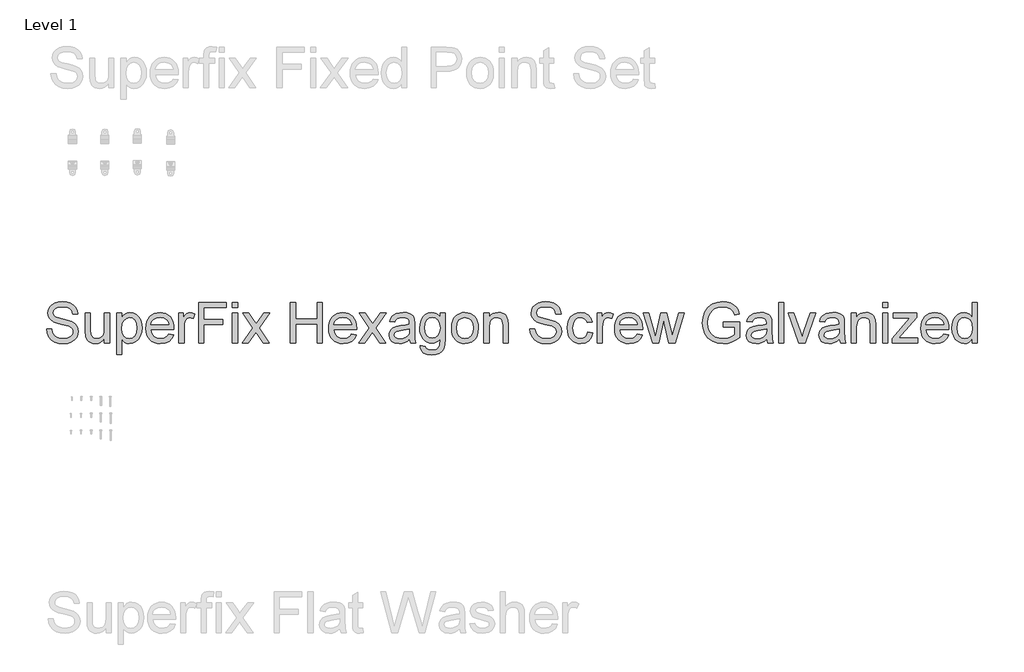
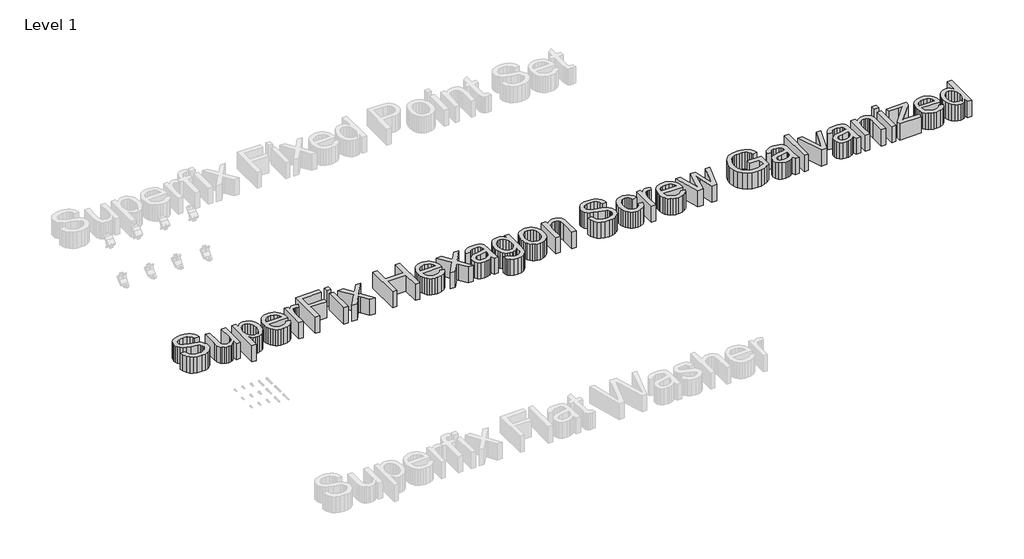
# One storey, part 19 of 32: 1 proxy.
"""IFC4 building model written with IfcOpenShell, lengths in millimetres."""

from ifc_helpers import new_model, si_unit, origin, origin_with_axes, place, context, project, spatial, polyline, outline, extrude, element, save

model = new_model("IFC4")

# Units and contexts
model_context = context("Model", 3, world=origin())
ifc_project = project(units=[si_unit("LENGTHUNIT", "METRE", prefix="MILLI")], contexts=[model_context])

# Site, building, storey
site = spatial("IfcSite", under=ifc_project)
building = spatial("IfcBuilding", under=site)
storey = spatial("IfcBuildingStorey", under=building, Name="Level 1", Elevation=0.0)

# Proxy
placement = place(None, origin())
element("IfcBuildingElementProxy", 1, Name="300mm Arial 2", ObjectType="300mm Arial 2", at=placement, inside=storey, context=model_context, shape_type="SweptSolid", body=[
    extrude(outline(polyline([(-40576.8327073, 14693.8825918), (-40539.161591, 14693.8825918), (-40534.8389775, 14672.9776974), (-40527.0214851, 14656.1746873), (-40514.826197, 14642.838965), (-40497.3701963, 14632.335934), (-40476.0330406, 14625.52092), (-40452.1942873, 14623.2492487), (-40431.2066195, 14624.969097), (-40412.8309138, 14630.128642), (-40397.9408901, 14638.2956223), (-40387.410268, 14649.0377766), (-40381.147077, 14661.3710205), (-40379.0593467, 14674.3112696), (-40380.6228452, 14686.920425), (-40385.3133406, 14697.8189291), (-40394.8414843, 14707.1171466), (-40410.9179275, 14714.9254419), (-40465.7691329, 14729.3096279), (-40501.7755832, 14738.8285745), (-40524.8141932, 14747.8876687), (-40543.5669779, 14760.5612034), (-40556.8567149, 14775.9202767), (-40564.7753749, 14793.6337948), (-40567.4149282, 14813.3706638), (-40564.1499755, 14835.4343865), (-40554.3551174, 14856.0081871), (-40538.2878712, 14873.4457936), (-40516.2057545, 14886.1009343), (-40489.6998567, 14893.798865), (-40460.3612676, 14896.3648419), (-40428.5762632, 14893.6793034), (-40400.7643844, 14885.6226877), (-40377.9189125, 14872.3605417), (-40361.0331289, 14854.0584125), (-40350.346157, 14831.8567341), (-40346.0971199, 14806.8959407), (-40383.7682362, 14806.8959407), (-40390.6844177, 14829.3735306), (-40405.1053919, 14845.5971266), (-40427.6381641, 14855.4195759), (-40458.8897396, 14858.6937256), (-40490.8770791, 14855.4563641), (-40512.8212401, 14845.7442794), (-40525.513169, 14831.4520639), (-40529.7438119, 14814.4743098), (-40526.7455736, 14799.9981533), (-40517.7508589, 14788.3546881), (-40496.4872795, 14777.9436277), (-40456.2409893, 14767.311838), (-40414.707112, 14757.2134773), (-40389.5807717, 14748.4027035), (-40368.1056603, 14734.7358874), (-40353.123666, 14717.8684979), (-40344.3220893, 14697.984476), (-40341.3882304, 14675.2677628), (-40344.7635477, 14652.0452119), (-40354.8894996, 14630.2022184), (-40371.3522189, 14611.4034485), (-40393.7378383, 14597.3135681), (-40420.6576033, 14588.5119913), (-40450.7227593, 14585.5781324), (-40487.6305205, 14588.7419176), (-40518.0083763, 14598.233273), (-40542.2058145, 14614.088987), (-40560.5723231, 14636.3458477), (-40572.362941, 14663.4587508), (-40576.8327073, 14693.8825918)])), origin_with_axes(), (0.0, 0.0, 1.0), 150.0),
    extrude(outline(polyline([(-40148.3237593, 14590.2870219), (-40148.3237593, 14628.3260202), (-40161.9537872, 14609.6238193), (-40177.8278953, 14596.2651044), (-40195.9460836, 14588.2498754), (-40216.308352, 14585.5781324), (-40234.6564665, 14587.4543306), (-40251.7353881, 14593.0829251), (-40266.0643919, 14601.544211), (-40276.1627526, 14611.9184833), (-40287.3831535, 14639.6567857), (-40289.5904455, 14674.6791516), (-40289.5904455, 14811.6048302), (-40251.9193291, 14811.6048302), (-40251.9193291, 14692.4110638), (-40249.6384608, 14654.0041835), (-40244.147822, 14641.192693), (-40234.73924, 14631.4530172), (-40222.0381141, 14625.3001908), (-40206.6698437, 14623.2492487), (-40190.4186566, 14625.3461761), (-40175.2159332, 14631.6369582), (-40162.6803542, 14641.5421809), (-40154.4306004, 14654.4824301), (-40149.8504696, 14672.2051452), (-40148.3237593, 14696.4577658), (-40148.3237593, 14811.6048302), (-40110.652643, 14811.6048302), (-40110.652643, 14590.2870219), (-40148.3237593, 14590.2870219)])), origin_with_axes(), (0.0, 0.0, 1.0), 150.0),
    extrude(outline(polyline([(-40058.8548581, 14505.5270103), (-40058.8548581, 14811.6048302), (-40021.1837418, 14811.6048302), (-40021.1837418, 14774.6694779), (-40008.8964831, 14792.8888337), (-39995.1376965, 14805.9026593), (-39979.0980415, 14813.7109547), (-39959.9681778, 14816.3137198), (-39934.4923496, 14812.671688), (-39912.2170948, 14801.7455928), (-39894.0805124, 14784.1976216), (-39881.0207016, 14760.6899621), (-39873.1296328, 14732.9332656), (-39870.4992765, 14702.6381833), (-39873.4699237, 14670.4209175), (-39882.381865, 14641.6065603), (-39896.949992, 14617.6574424), (-39916.8891961, 14600.0358948), (-39940.1117471, 14589.192573), (-39964.5299145, 14585.5781324), (-39981.8479594, 14587.9969565), (-39997.3082003, 14595.2534289), (-40010.5427551, 14606.2071153), (-40021.1837418, 14619.7175816), (-40021.1837418, 14505.5270103), (-40058.8548581, 14505.5270103)]), holes=[polyline([(-40021.1837418, 14699.1800925), (-40017.1094487, 14665.4085254), (-40004.8865694, 14641.7905013), (-39986.8511546, 14627.8845619), (-39965.3392549, 14623.2492487), (-39943.4778673, 14628.0501087), (-39924.9826, 14642.4526889), (-39912.3734446, 14666.9352356), (-39908.1703929, 14701.9759957), (-39912.2722771, 14735.5636218), (-39924.5779298, 14759.5127397), (-39942.5857535, 14773.8601375), (-39963.7941505, 14778.6426035), (-39985.085321, 14773.5566349), (-40003.7829234, 14758.2987291), (-40016.8335372, 14733.3471328), (-40021.1837418, 14699.1800925)])]), origin_with_axes(), (0.0, 0.0, 1.0), 150.0),
    extrude(outline(polyline([(-39673.1673743, 14656.2114755), (-39636.232022, 14651.5025859), (-39649.5401532, 14623.672313), (-39670.7761414, 14602.8685862), (-39699.4617399, 14589.9007458), (-39735.1187023, 14585.5781324), (-39758.4930046, 14587.4428343), (-39779.319724, 14593.0369399), (-39797.5988607, 14602.3604492), (-39813.3304145, 14615.4133622), (-39825.9809566, 14631.8323955), (-39835.0170581, 14651.2542656), (-39840.438719, 14673.6789725), (-39842.2459393, 14699.1065161), (-39840.4203249, 14725.3962832), (-39834.9434817, 14748.5682504), (-39825.8154097, 14768.6224176), (-39813.0361089, 14785.558785), (-39797.3459418, 14799.014069), (-39779.4852709, 14808.6249861), (-39759.4540963, 14814.3915364), (-39737.2524179, 14816.3137198), (-39715.7658101, 14814.3961349), (-39696.334743, 14808.6433802), (-39678.9592165, 14799.0554557), (-39663.6392307, 14785.6323614), (-39651.1335421, 14768.7327822), (-39642.2009074, 14748.7154032), (-39636.8413266, 14725.5802242), (-39635.0547996, 14699.3272453), (-39635.2755288, 14689.1737022), (-39804.574823, 14689.1737022), (-39798.0541146, 14660.9755473), (-39782.9065735, 14640.2453969), (-39761.0451859, 14627.4982858), (-39734.3829383, 14623.2492487), (-39714.3333696, 14625.2174174), (-39697.447586, 14631.1219234), (-39683.7255876, 14641.3306488), (-39673.1673743, 14656.2114755)]), holes=[polyline([(-39804.574823, 14726.8448186), (-39672.7259159, 14726.8448186), (-39677.8210816, 14746.7472345), (-39687.8090777, 14760.9842677), (-39709.7716329, 14774.2280195), (-39737.3995707, 14778.6426035), (-39762.7926254, 14775.1201334), (-39783.7894903, 14764.5527231), (-39798.3852084, 14748.0808067), (-39804.574823, 14726.8448186)])]), origin_with_axes(), (0.0, 0.0, 1.0), 150.0),
    extrude(outline(polyline([(-39597.3836833, 14590.2870219), (-39597.3836833, 14811.6048302), (-39564.4214566, 14811.6048302), (-39564.4214566, 14778.8633327), (-39552.2445625, 14797.8460436), (-39541.0241617, 14809.0296563), (-39529.7669726, 14814.4927039), (-39517.479714, 14816.3137198), (-39498.7177322, 14813.407452), (-39479.6614449, 14804.6886487), (-39492.2430091, 14770.9170816), (-39505.4867609, 14776.711223), (-39518.7305128, 14778.6426035), (-39529.9785048, 14776.7847994), (-39540.0308803, 14771.2113872), (-39548.1518753, 14762.3454311), (-39553.6057259, 14750.6099954), (-39558.1858567, 14729.5671453), (-39559.712567, 14706.6113088), (-39559.712567, 14590.2870219), (-39597.3836833, 14590.2870219)])), origin_with_axes(), (0.0, 0.0, 1.0), 150.0),
    extrude(outline(polyline([(-39451.4081076, 14590.2870219), (-39451.4081076, 14891.6559524), (-39248.9258575, 14891.6559524), (-39248.9258575, 14853.9848361), (-39413.7369913, 14853.9848361), (-39413.7369913, 14764.5159349), (-39272.4703052, 14764.5159349), (-39272.4703052, 14726.8448186), (-39413.7369913, 14726.8448186), (-39413.7369913, 14590.2870219), (-39451.4081076, 14590.2870219)])), origin_with_axes(), (0.0, 0.0, 1.0), 150.0),
    extrude(outline(polyline([(-39201.8369621, 14853.9848361), (-39201.8369621, 14891.6559524), (-39164.1658458, 14891.6559524), (-39164.1658458, 14853.9848361), (-39201.8369621, 14853.9848361)])), origin_with_axes(), (0.0, 0.0, 1.0), 150.0),
    extrude(outline(polyline([(-39201.8369621, 14590.2870219), (-39201.8369621, 14811.6048302), (-39164.1658458, 14811.6048302), (-39164.1658458, 14590.2870219), (-39201.8369621, 14590.2870219)])), origin_with_axes(), (0.0, 0.0, 1.0), 150.0),
    extrude(outline(polyline([(-39131.203619, 14590.2870219), (-39050.7110385, 14701.5345373), (-39126.4947295, 14811.6048302), (-39081.1716677, 14811.6048302), (-39044.6041974, 14758.6298229), (-39027.5344728, 14733.6138473), (-39012.7456166, 14754.0680862), (-38971.1013747, 14811.6048302), (-38925.7783129, 14811.6048302), (-39005.3879767, 14701.5345373), (-38928.7213689, 14590.2870219), (-38974.0444307, 14590.2870219), (-39020.1768329, 14657.1679687), (-39028.6381188, 14669.3816509), (-39085.8805572, 14590.2870219), (-39131.203619, 14590.2870219)])), origin_with_axes(), (0.0, 0.0, 1.0), 150.0),
    extrude(outline(polyline([(-38773.3280141, 14590.2870219), (-38773.3280141, 14891.6559524), (-38735.6568978, 14891.6559524), (-38735.6568978, 14769.2248244), (-38575.5546535, 14769.2248244), (-38575.5546535, 14891.6559524), (-38537.8835372, 14891.6559524), (-38537.8835372, 14590.2870219), (-38575.5546535, 14590.2870219), (-38575.5546535, 14731.5537081), (-38735.6568978, 14731.5537081), (-38735.6568978, 14590.2870219), (-38773.3280141, 14590.2870219)])), origin_with_axes(), (0.0, 0.0, 1.0), 150.0),
    extrude(outline(polyline([(-38321.7160769, 14656.2114755), (-38284.7807245, 14651.5025859), (-38298.0888557, 14623.672313), (-38319.3248439, 14602.8685862), (-38348.0104425, 14589.9007458), (-38383.6674048, 14585.5781324), (-38407.0417071, 14587.4428343), (-38427.8684266, 14593.0369399), (-38446.1475632, 14602.3604492), (-38461.879117, 14615.4133622), (-38474.5296591, 14631.8323955), (-38483.5657606, 14651.2542656), (-38488.9874215, 14673.6789725), (-38490.7946418, 14699.1065161), (-38488.9690274, 14725.3962832), (-38483.4921842, 14748.5682504), (-38474.3641122, 14768.6224176), (-38461.5848114, 14785.558785), (-38445.8946443, 14799.014069), (-38428.0339735, 14808.6249861), (-38408.0027988, 14814.3915364), (-38385.8011204, 14816.3137198), (-38364.3145126, 14814.3961349), (-38344.8834455, 14808.6433802), (-38327.507919, 14799.0554557), (-38312.1879332, 14785.6323614), (-38299.6822446, 14768.7327822), (-38290.7496099, 14748.7154032), (-38285.3900291, 14725.5802242), (-38283.6035022, 14699.3272453), (-38283.8242313, 14689.1737022), (-38453.1235255, 14689.1737022), (-38446.6028172, 14660.9755473), (-38431.455276, 14640.2453969), (-38409.5938884, 14627.4982858), (-38382.9316408, 14623.2492487), (-38362.8820721, 14625.2174174), (-38345.9962885, 14631.1219234), (-38332.2742901, 14641.3306488), (-38321.7160769, 14656.2114755)]), holes=[polyline([(-38453.1235255, 14726.8448186), (-38321.2746185, 14726.8448186), (-38326.3697841, 14746.7472345), (-38336.3577803, 14760.9842677), (-38358.3203354, 14774.2280195), (-38385.9482732, 14778.6426035), (-38411.3413279, 14775.1201334), (-38432.3381928, 14764.5527231), (-38446.933911, 14748.0808067), (-38453.1235255, 14726.8448186)])]), origin_with_axes(), (0.0, 0.0, 1.0), 150.0),
    extrude(outline(polyline([(-38269.4768335, 14590.2870219), (-38188.984253, 14701.5345373), (-38264.767944, 14811.6048302), (-38219.4448822, 14811.6048302), (-38182.8774119, 14758.6298229), (-38165.8076873, 14733.6138473), (-38151.0188311, 14754.0680862), (-38109.3745892, 14811.6048302), (-38064.0515274, 14811.6048302), (-38143.6611912, 14701.5345373), (-38066.9945834, 14590.2870219), (-38112.3176452, 14590.2870219), (-38158.4500474, 14657.1679687), (-38166.9113333, 14669.3816509), (-38224.1537717, 14590.2870219), (-38269.4768335, 14590.2870219)])), origin_with_axes(), (0.0, 0.0, 1.0), 150.0),
    extrude(outline(polyline([(-37892.7656705, 14618.5403592), (-37910.7642971, 14603.1077095), (-37929.2963526, 14593.0093487), (-37948.7849013, 14587.4359365), (-37969.6530075, 14585.5781324), (-38001.1345092, 14590.0478986), (-38024.3570602, 14603.4571974), (-38038.6768668, 14623.8194658), (-38043.4501357, 14649.1481412), (-38041.6475139, 14664.7647319), (-38036.2396486, 14678.9465828), (-38027.8979244, 14691.0866886), (-38017.2937258, 14700.5780441), (-37990.9165868, 14712.9388791), (-37958.322242, 14718.6042619), (-37919.8049971, 14724.5639502), (-37892.9863997, 14731.5537081), (-37892.7656705, 14739.9414176), (-37895.3592385, 14756.7536248), (-37903.1399427, 14767.7532964), (-37920.5407611, 14775.9202767), (-37944.7841846, 14778.6426035), (-37967.2249863, 14776.8307846), (-37982.8967593, 14771.3953282), (-37993.5837313, 14761.3429527), (-38001.0701299, 14745.6803767), (-38038.7412462, 14750.3892662), (-38032.2021437, 14770.990658), (-38022.4440738, 14787.1774658), (-38008.5565285, 14799.5566949), (-37989.6289998, 14808.7353507), (-37966.4800253, 14814.4191275), (-37939.9281423, 14816.3137198), (-37914.4615111, 14814.6398567), (-37894.2739867, 14809.6182675), (-37879.0528691, 14802.0674895), (-37868.4854588, 14792.8060603), (-37861.4773068, 14781.3557332), (-37856.9339641, 14767.2382616), (-37855.0945542, 14734.2760349), (-37855.0945542, 14687.4078687), (-37853.1815678, 14621.9616617), (-37845.6767751, 14590.2870219), (-37883.3478914, 14590.2870219), (-37892.7656705, 14618.5403592)]), holes=[polyline([(-37892.7656705, 14693.8825918), (-37953.5397761, 14682.3310971), (-37985.9501799, 14676.224256), (-38000.6286715, 14666.2914421), (-38005.7790194, 14651.7968915), (-38002.9739192, 14640.5948848), (-37994.5586185, 14631.416229), (-37980.7170585, 14625.2909938), (-37961.63318, 14623.2492487), (-37941.3996702, 14625.5025259), (-37923.5206053, 14632.2623576), (-37909.0260547, 14642.2227626), (-37898.946088, 14654.0777599), (-37894.4763218, 14666.2914421), (-37892.9863997, 14683.2140139), (-37892.7656705, 14693.8825918)])]), origin_with_axes(), (0.0, 0.0, 1.0), 150.0),
    extrude(outline(polyline([(-37812.7145483, 14571.4514638), (-37775.043432, 14566.7425743), (-37770.8863655, 14554.9703504), (-37762.8297498, 14546.8769465), (-37746.9924299, 14540.5861644), (-37726.2622795, 14538.489237), (-37704.1525715, 14540.8620759), (-37687.7082464, 14547.9805925), (-37676.3039045, 14559.3849343), (-37669.3141466, 14574.6152489), (-37666.7389726, 14618.5403592), (-37679.2745516, 14606.1795241), (-37693.2632645, 14597.3503563), (-37708.7051112, 14592.0528555), (-37725.6000919, 14590.2870219), (-37746.2543666, 14592.3425626), (-37764.4392335, 14598.5091845), (-37780.1546925, 14608.7868878), (-37793.4007436, 14623.1756723), (-37803.9106723, 14640.4385349), (-37811.4177643, 14659.3384724), (-37815.9220195, 14679.8754848), (-37817.4234379, 14702.0495721), (-37814.7287022, 14732.464216), (-37806.6444954, 14760.4324447), (-37793.4559259, 14784.1332423), (-37775.4481022, 14801.7455928), (-37753.2372268, 14812.671688), (-37727.4395018, 14816.3137198), (-37709.8225528, 14814.2535806), (-37693.8334816, 14808.0731631), (-37679.4722882, 14797.7724672), (-37666.7389726, 14783.351493), (-37666.7389726, 14811.6048302), (-37629.0678563, 14811.6048302), (-37629.0678563, 14620.5269219), (-37631.6430303, 14576.4086737), (-37639.3685522, 14547.3551931), (-37652.6766834, 14528.0873736), (-37671.9996852, 14513.3261086), (-37696.9144933, 14503.9451177), (-37726.9980434, 14500.8181207), (-37762.0480005, 14505.2235076), (-37789.6483472, 14518.4396683), (-37800.0433129, 14528.3609858), (-37807.3526682, 14540.5033909), (-37811.5764134, 14554.8668836), (-37812.7145483, 14571.4514638)]), holes=[polyline([(-37779.7523216, 14704.624746), (-37775.7332108, 14670.0714296), (-37763.6758784, 14646.3154498), (-37745.5484931, 14632.5474661), (-37723.3192235, 14627.9581383), (-37701.2555008, 14632.519875), (-37683.036145, 14646.2050852), (-37670.8132657, 14669.6575624), (-37666.7389726, 14703.5211001), (-37670.9328274, 14736.1798242), (-37683.5143916, 14759.6966807), (-37702.0004619, 14773.9061228), (-37723.9078347, 14778.6426035), (-37745.4197344, 14773.9796992), (-37763.4551492, 14759.9909863), (-37775.6780285, 14736.8236177), (-37779.7523216, 14704.624746)])]), origin_with_axes(), (0.0, 0.0, 1.0), 150.0),
    extrude(outline(polyline([(-37581.978961, 14700.9459261), (-37579.9418144, 14729.608532), (-37573.8303748, 14754.3072095), (-37563.644642, 14775.0419584), (-37549.3846162, 14791.8127789), (-37535.0280213, 14802.5319405), (-37519.1815044, 14810.1884846), (-37501.8450654, 14814.782411), (-37483.0187042, 14816.3137198), (-37462.2356708, 14814.4490179), (-37443.4437986, 14808.8549123), (-37426.6430877, 14799.531403), (-37411.8335382, 14786.47849), (-37399.7463154, 14770.1376316), (-37391.1125848, 14750.9502863), (-37385.9323465, 14728.916454), (-37384.2056003, 14704.0361349), (-37387.2590209, 14665.9787425), (-37396.4192826, 14637.0080353), (-37411.4196709, 14615.3121947), (-37431.9934715, 14599.0794016), (-37456.430033, 14588.9534497), (-37483.0187042, 14585.5781324), (-37504.1052404, 14587.4359365), (-37523.0718565, 14593.0093487), (-37539.9185526, 14602.2983691), (-37554.6453287, 14615.3029976), (-37566.6037928, 14631.8025051), (-37575.1455529, 14651.5761623), (-37580.2706089, 14674.6239693), (-37581.978961, 14700.9459261)]), holes=[polyline([(-37544.3078446, 14701.0195025), (-37539.948443, 14666.9260386), (-37526.8702381, 14642.6366299), (-37507.1885513, 14628.096094), (-37483.0187042, 14623.2492487), (-37458.9592218, 14628.1236851), (-37439.3143232, 14642.7469945), (-37426.2361183, 14667.3582999), (-37421.8767166, 14702.1967249), (-37426.2637094, 14735.2969074), (-37439.4246878, 14759.2552223), (-37459.0971775, 14773.7957582), (-37483.0187042, 14778.6426035), (-37507.1885513, 14773.8141523), (-37526.8702381, 14759.3287987), (-37539.948443, 14735.0945723), (-37544.3078446, 14701.0195025)])]), origin_with_axes(), (0.0, 0.0, 1.0), 150.0),
    extrude(outline(polyline([(-37341.8255945, 14590.2870219), (-37341.8255945, 14811.6048302), (-37304.1544782, 14811.6048302), (-37304.1544782, 14780.7027426), (-37291.0670762, 14796.2825451), (-37275.349318, 14807.4109755), (-37257.0012035, 14814.0880337), (-37236.0227327, 14816.3137198), (-37217.453889, 14814.5202951), (-37200.4485438, 14809.1400209), (-37186.2666928, 14800.8442819), (-37176.1683321, 14790.3044627), (-37164.8743548, 14762.6029485), (-37162.887792, 14726.182631), (-37162.887792, 14590.2870219), (-37200.5589084, 14590.2870219), (-37200.5589084, 14721.1058594), (-37204.8999159, 14754.4359682), (-37210.9055895, 14764.359585), (-37220.2405951, 14772.0575158), (-37232.205957, 14776.9963315), (-37246.1026994, 14778.6426035), (-37268.166422, 14774.9453894), (-37286.974389, 14763.8537473), (-37294.490678, 14754.7992517), (-37299.8594559, 14742.424621), (-37304.1544782, 14707.7149548), (-37304.1544782, 14590.2870219), (-37341.8255945, 14590.2870219)])), origin_with_axes(), (0.0, 0.0, 1.0), 150.0),
    extrude(outline(polyline([(-37002.7855477, 14693.8825918), (-36965.1144314, 14693.8825918), (-36960.791818, 14672.9776974), (-36952.9743256, 14656.1746873), (-36940.7790375, 14642.838965), (-36923.3230368, 14632.335934), (-36901.9858811, 14625.52092), (-36878.1471278, 14623.2492487), (-36857.15946, 14624.969097), (-36838.7837543, 14630.128642), (-36823.8937305, 14638.2956223), (-36813.3631084, 14649.0377766), (-36807.0999175, 14661.3710205), (-36805.0121871, 14674.3112696), (-36806.5756856, 14686.920425), (-36811.2661811, 14697.8189291), (-36820.7943247, 14707.1171466), (-36836.8707679, 14714.9254419), (-36891.7219734, 14729.3096279), (-36927.7284237, 14738.8285745), (-36950.7670336, 14747.8876687), (-36969.5198183, 14760.5612034), (-36982.8095554, 14775.9202767), (-36990.7282154, 14793.6337948), (-36993.3677687, 14813.3706638), (-36990.102816, 14835.4343865), (-36980.3079578, 14856.0081871), (-36964.2407117, 14873.4457936), (-36942.1585949, 14886.1009343), (-36915.6526972, 14893.798865), (-36886.3141081, 14896.3648419), (-36854.5291037, 14893.6793034), (-36826.7172249, 14885.6226877), (-36803.871753, 14872.3605417), (-36786.9859694, 14854.0584125), (-36776.2989974, 14831.8567341), (-36772.0499604, 14806.8959407), (-36809.7210767, 14806.8959407), (-36816.6372582, 14829.3735306), (-36831.0582324, 14845.5971266), (-36853.5910046, 14855.4195759), (-36884.8425801, 14858.6937256), (-36916.8299196, 14855.4563641), (-36938.7740806, 14845.7442794), (-36951.4660094, 14831.4520639), (-36955.6966524, 14814.4743098), (-36952.6984141, 14799.9981533), (-36943.7036993, 14788.3546881), (-36922.44012, 14777.9436277), (-36882.1938297, 14767.311838), (-36840.6599525, 14757.2134773), (-36815.5336122, 14748.4027035), (-36794.0585007, 14734.7358874), (-36779.0765065, 14717.8684979), (-36770.2749297, 14697.984476), (-36767.3410708, 14675.2677628), (-36770.7163881, 14652.0452119), (-36780.8423401, 14630.2022184), (-36797.3050593, 14611.4034485), (-36819.6906787, 14597.3135681), (-36846.6104437, 14588.5119913), (-36876.6755998, 14585.5781324), (-36913.583361, 14588.7419176), (-36943.9612167, 14598.233273), (-36968.1586549, 14614.088987), (-36986.5251636, 14636.3458477), (-36998.3157815, 14663.4587508), (-37002.7855477, 14693.8825918)])), origin_with_axes(), (0.0, 0.0, 1.0), 150.0),
    extrude(outline(polyline([(-36574.2765998, 14670.3381441), (-36536.6054835, 14665.6292546), (-36547.1085144, 14632.1244018), (-36566.8453835, 14606.8049235), (-36593.9582865, 14590.8848302), (-36626.5894195, 14585.5781324), (-36647.7173423, 14587.4290387), (-36666.6609658, 14592.9817576), (-36683.4202899, 14602.236289), (-36697.9953147, 14615.192633), (-36709.7928305, 14631.6070678), (-36718.2196274, 14651.2358715), (-36723.2757056, 14674.0790441), (-36724.961065, 14700.1365857), (-36722.0823884, 14733.6598325), (-36713.4463585, 14762.7133131), (-36698.9150197, 14786.1749873), (-36678.3504162, 14802.9228152), (-36653.7483078, 14812.9659936), (-36627.1044543, 14816.3137198), (-36595.2734646, 14811.7151948), (-36569.8252276, 14797.91962), (-36551.5690836, 14775.6627593), (-36541.314373, 14745.6803767), (-36578.9854893, 14740.9714872), (-36585.8188974, 14757.4066153), (-36596.4598841, 14769.1880362), (-36610.3198382, 14776.2789617), (-36626.8101487, 14778.6426035), (-36651.1547397, 14773.9888962), (-36670.4777415, 14760.0277745), (-36683.0868969, 14736.0050802), (-36687.2899487, 14701.1666553), (-36683.1788674, 14665.8591808), (-36670.8456235, 14641.7537131), (-36651.8721096, 14627.8753648), (-36627.8402183, 14623.2492487), (-36608.3332755, 14626.1371224), (-36592.3396057, 14634.8007434), (-36580.7053376, 14649.4608409), (-36574.2765998, 14670.3381441)])), origin_with_axes(), (0.0, 0.0, 1.0), 150.0),
    extrude(outline(polyline([(-36503.6432567, 14590.2870219), (-36503.6432567, 14811.6048302), (-36470.6810299, 14811.6048302), (-36470.6810299, 14778.8633327), (-36458.5041359, 14797.8460436), (-36447.283735, 14809.0296563), (-36436.026546, 14814.4927039), (-36423.7392873, 14816.3137198), (-36404.9773056, 14813.407452), (-36385.9210182, 14804.6886487), (-36398.5025825, 14770.9170816), (-36411.7463343, 14776.711223), (-36424.9900861, 14778.6426035), (-36436.2380781, 14776.7847994), (-36446.2904536, 14771.2113872), (-36454.4114487, 14762.3454311), (-36459.8652993, 14750.6099954), (-36464.4454301, 14729.5671453), (-36465.9721404, 14706.6113088), (-36465.9721404, 14590.2870219), (-36503.6432567, 14590.2870219)])), origin_with_axes(), (0.0, 0.0, 1.0), 150.0),
    extrude(outline(polyline([(-36207.4246742, 14656.2114755), (-36170.4893219, 14651.5025859), (-36183.797453, 14623.672313), (-36205.0334412, 14602.8685862), (-36233.7190398, 14589.9007458), (-36269.3760022, 14585.5781324), (-36292.7503044, 14587.4428343), (-36313.5770239, 14593.0369399), (-36331.8561605, 14602.3604492), (-36347.5877143, 14615.4133622), (-36360.2382564, 14631.8323955), (-36369.2743579, 14651.2542656), (-36374.6960189, 14673.6789725), (-36376.5032392, 14699.1065161), (-36374.6776248, 14725.3962832), (-36369.2007816, 14748.5682504), (-36360.0727095, 14768.6224176), (-36347.2934087, 14785.558785), (-36331.6032416, 14799.014069), (-36313.7425708, 14808.6249861), (-36293.7113961, 14814.3915364), (-36271.5097177, 14816.3137198), (-36250.02311, 14814.3961349), (-36230.5920428, 14808.6433802), (-36213.2165163, 14799.0554557), (-36197.8965305, 14785.6323614), (-36185.3908419, 14768.7327822), (-36176.4582072, 14748.7154032), (-36171.0986264, 14725.5802242), (-36169.3120995, 14699.3272453), (-36169.5328287, 14689.1737022), (-36338.8321228, 14689.1737022), (-36332.3114145, 14660.9755473), (-36317.1638733, 14640.2453969), (-36295.3024858, 14627.4982858), (-36268.6402382, 14623.2492487), (-36248.5906694, 14625.2174174), (-36231.7048859, 14631.1219234), (-36217.9828874, 14641.3306488), (-36207.4246742, 14656.2114755)]), holes=[polyline([(-36338.8321228, 14726.8448186), (-36206.9832158, 14726.8448186), (-36212.0783814, 14746.7472345), (-36222.0663776, 14760.9842677), (-36244.0289327, 14774.2280195), (-36271.6568705, 14778.6426035), (-36297.0499252, 14775.1201334), (-36318.0467901, 14764.5527231), (-36332.6425083, 14748.0808067), (-36338.8321228, 14726.8448186)])]), origin_with_axes(), (0.0, 0.0, 1.0), 150.0),
    extrude(outline(polyline([(-36094.92636, 14590.2870219), (-36162.2487652, 14811.6048302), (-36123.1061209, 14811.6048302), (-36084.9199698, 14682.4782499), (-36073.5156279, 14636.3458477), (-36064.1714252, 14680.7859928), (-36033.7843724, 14811.6048302), (-35988.902769, 14811.6048302), (-35958.662869, 14681.1538748), (-35950.3487359, 14640.9075845), (-35938.4293593, 14683.3611667), (-35900.1696318, 14811.6048302), (-35860.8798347, 14811.6048302), (-35928.7172746, 14590.2870219), (-35974.2610656, 14590.2870219), (-36003.1765904, 14720.0757898), (-36011.5642999, 14760.5428093), (-36048.8675343, 14590.2870219), (-36094.92636, 14590.2870219)])), origin_with_axes(), (0.0, 0.0, 1.0), 150.0),
    extrude(outline(polyline([(-35571.2831281, 14708.0092604), (-35571.2831281, 14745.6803767), (-35448.8520001, 14745.6803767), (-35448.8520001, 14633.0349098), (-35478.6044565, 14612.3415476), (-35509.2950119, 14597.497509), (-35540.8500901, 14588.5579766), (-35573.1961145, 14585.5781324), (-35615.4565587, 14590.3146131), (-35653.6519068, 14604.5240552), (-35685.3817289, 14627.7098179), (-35708.2455949, 14659.3752606), (-35722.0687609, 14697.3590766), (-35726.6764829, 14739.4999592), (-35722.087155, 14781.9443444), (-35708.3191713, 14821.4272795), (-35685.942749, 14854.5458561), (-35655.528105, 14877.8971658), (-35618.4823881, 14891.7479229), (-35576.2127468, 14896.3648419), (-35545.1819006, 14893.6885004), (-35517.2780512, 14885.6594759), (-35493.7795888, 14872.8571824), (-35475.9649032, 14855.8610343), (-35462.7855307, 14833.8524939), (-35453.1930077, 14806.0130239), (-35487.921068, 14796.2273628), (-35495.6741811, 14816.0837935), (-35505.1011572, 14831.0657878), (-35517.5723568, 14842.359765), (-35534.4581404, 14851.1521447), (-35554.5904826, 14856.8083304), (-35576.801358, 14858.6937256), (-35602.801418, 14856.6611776), (-35625.0306876, 14850.5635335), (-35643.4063933, 14841.1641486), (-35657.8457616, 14829.2263778), (-35677.2331427, 14800.2004884), (-35686.0623106, 14771.7632102), (-35689.0053666, 14741.0450636), (-35685.4645024, 14705.0202192), (-35674.8419098, 14675.3781274), (-35657.4594855, 14652.3303204), (-35633.6391263, 14636.0883303), (-35605.7628681, 14626.4590191), (-35576.2127468, 14623.2492487), (-35550.1207163, 14625.6680728), (-35524.6724793, 14632.9245452), (-35502.5719685, 14642.9217384), (-35486.5231164, 14653.5627251), (-35486.5231164, 14708.0092604), (-35571.2831281, 14708.0092604)])), origin_with_axes(), (0.0, 0.0, 1.0), 150.0),
    extrude(outline(polyline([(-35251.0786395, 14618.5403592), (-35269.0772661, 14603.1077095), (-35287.6093216, 14593.0093487), (-35307.0978703, 14587.4359365), (-35327.9659765, 14585.5781324), (-35359.4474782, 14590.0478986), (-35382.6700292, 14603.4571974), (-35396.9898358, 14623.8194658), (-35401.7631047, 14649.1481412), (-35399.960483, 14664.7647319), (-35394.5526176, 14678.9465828), (-35386.2108934, 14691.0866886), (-35375.6066949, 14700.5780441), (-35349.2295558, 14712.9388791), (-35316.6352111, 14718.6042619), (-35278.1179662, 14724.5639502), (-35251.2993687, 14731.5537081), (-35251.0786395, 14739.9414176), (-35253.6722076, 14756.7536248), (-35261.4529118, 14767.7532964), (-35278.8537301, 14775.9202767), (-35303.0971536, 14778.6426035), (-35325.5379553, 14776.8307846), (-35341.2097283, 14771.3953282), (-35351.8967003, 14761.3429527), (-35359.3830989, 14745.6803767), (-35397.0542152, 14750.3892662), (-35390.5151127, 14770.990658), (-35380.7570428, 14787.1774658), (-35366.8694975, 14799.5566949), (-35347.9419688, 14808.7353507), (-35324.7929943, 14814.4191275), (-35298.2411113, 14816.3137198), (-35272.7744802, 14814.6398567), (-35252.5869557, 14809.6182675), (-35237.3658381, 14802.0674895), (-35226.7984278, 14792.8060603), (-35219.7902758, 14781.3557332), (-35215.2469332, 14767.2382616), (-35213.4075232, 14734.2760349), (-35213.4075232, 14687.4078687), (-35211.4945368, 14621.9616617), (-35203.9897441, 14590.2870219), (-35241.6608604, 14590.2870219), (-35251.0786395, 14618.5403592)]), holes=[polyline([(-35251.0786395, 14693.8825918), (-35311.8527451, 14682.3310971), (-35344.2631489, 14676.224256), (-35358.9416405, 14666.2914421), (-35364.0919884, 14651.7968915), (-35361.2868882, 14640.5948848), (-35352.8715876, 14631.416229), (-35339.0300275, 14625.2909938), (-35319.946149, 14623.2492487), (-35299.7126393, 14625.5025259), (-35281.8335743, 14632.2623576), (-35267.3390237, 14642.2227626), (-35257.259057, 14654.0777599), (-35252.7892908, 14666.2914421), (-35251.2993687, 14683.2140139), (-35251.0786395, 14693.8825918)])]), origin_with_axes(), (0.0, 0.0, 1.0), 150.0),
    extrude(outline(polyline([(-35161.6097383, 14590.2870219), (-35161.6097383, 14891.6559524), (-35123.938622, 14891.6559524), (-35123.938622, 14590.2870219), (-35161.6097383, 14590.2870219)])), origin_with_axes(), (0.0, 0.0, 1.0), 150.0),
    extrude(outline(polyline([(-35013.132565, 14590.2870219), (-35090.9763952, 14811.6048302), (-35051.0979869, 14811.6048302), (-35003.9355152, 14679.0201592), (-34989.7352701, 14634.4328614), (-34975.8293307, 14676.5185616), (-34928.3725533, 14811.6048302), (-34888.4941451, 14811.6048302), (-34965.3814821, 14590.2870219), (-35013.132565, 14590.2870219)])), origin_with_axes(), (0.0, 0.0, 1.0), 150.0),
    extrude(outline(polyline([(-34714.2652321, 14618.5403592), (-34732.2638588, 14603.1077095), (-34750.7959143, 14593.0093487), (-34770.284463, 14587.4359365), (-34791.1525691, 14585.5781324), (-34822.6340709, 14590.0478986), (-34845.8566218, 14603.4571974), (-34860.1764285, 14623.8194658), (-34864.9496974, 14649.1481412), (-34863.1470756, 14664.7647319), (-34857.7392103, 14678.9465828), (-34849.397486, 14691.0866886), (-34838.7932875, 14700.5780441), (-34812.4161485, 14712.9388791), (-34779.8218037, 14718.6042619), (-34741.3045588, 14724.5639502), (-34714.4859613, 14731.5537081), (-34714.2652321, 14739.9414176), (-34716.8588002, 14756.7536248), (-34724.6395044, 14767.7532964), (-34742.0403228, 14775.9202767), (-34766.2837463, 14778.6426035), (-34788.724548, 14776.8307846), (-34804.396321, 14771.3953282), (-34815.0832929, 14761.3429527), (-34822.5696915, 14745.6803767), (-34860.2408078, 14750.3892662), (-34853.7017054, 14770.990658), (-34843.9436354, 14787.1774658), (-34830.0560901, 14799.5566949), (-34811.1285615, 14808.7353507), (-34787.9795869, 14814.4191275), (-34761.4277039, 14816.3137198), (-34735.9610728, 14814.6398567), (-34715.7735483, 14809.6182675), (-34700.5524308, 14802.0674895), (-34689.9850205, 14792.8060603), (-34682.9768685, 14781.3557332), (-34678.4335258, 14767.2382616), (-34676.5941158, 14734.2760349), (-34676.5941158, 14687.4078687), (-34674.6811295, 14621.9616617), (-34667.1763368, 14590.2870219), (-34704.8474531, 14590.2870219), (-34714.2652321, 14618.5403592)]), holes=[polyline([(-34714.2652321, 14693.8825918), (-34775.0393378, 14682.3310971), (-34807.4497415, 14676.224256), (-34822.1282331, 14666.2914421), (-34827.2785811, 14651.7968915), (-34824.4734809, 14640.5948848), (-34816.0581802, 14631.416229), (-34802.2166201, 14625.2909938), (-34783.1327416, 14623.2492487), (-34762.8992319, 14625.5025259), (-34745.0201669, 14632.2623576), (-34730.5256163, 14642.2227626), (-34720.4456497, 14654.0777599), (-34715.9758834, 14666.2914421), (-34714.4859613, 14683.2140139), (-34714.2652321, 14693.8825918)])]), origin_with_axes(), (0.0, 0.0, 1.0), 150.0),
    extrude(outline(polyline([(-34624.7963309, 14590.2870219), (-34624.7963309, 14811.6048302), (-34587.1252146, 14811.6048302), (-34587.1252146, 14780.7027426), (-34574.0378126, 14796.2825451), (-34558.3200544, 14807.4109755), (-34539.9719399, 14814.0880337), (-34518.9934691, 14816.3137198), (-34500.4246254, 14814.5202951), (-34483.4192802, 14809.1400209), (-34469.2374293, 14800.8442819), (-34459.1390685, 14790.3044627), (-34447.8450912, 14762.6029485), (-34445.8585285, 14726.182631), (-34445.8585285, 14590.2870219), (-34483.5296448, 14590.2870219), (-34483.5296448, 14721.1058594), (-34487.8706523, 14754.4359682), (-34493.8763259, 14764.359585), (-34503.2113315, 14772.0575158), (-34515.1766934, 14776.9963315), (-34529.0734358, 14778.6426035), (-34551.1371584, 14774.9453894), (-34569.9451254, 14763.8537473), (-34577.4614145, 14754.7992517), (-34582.8301923, 14742.424621), (-34587.1252146, 14707.7149548), (-34587.1252146, 14590.2870219), (-34624.7963309, 14590.2870219)])), origin_with_axes(), (0.0, 0.0, 1.0), 150.0),
    extrude(outline(polyline([(-34394.0607435, 14853.9848361), (-34394.0607435, 14891.6559524), (-34356.3896272, 14891.6559524), (-34356.3896272, 14853.9848361), (-34394.0607435, 14853.9848361)])), origin_with_axes(), (0.0, 0.0, 1.0), 150.0),
    extrude(outline(polyline([(-34394.0607435, 14590.2870219), (-34394.0607435, 14811.6048302), (-34356.3896272, 14811.6048302), (-34356.3896272, 14590.2870219), (-34394.0607435, 14590.2870219)])), origin_with_axes(), (0.0, 0.0, 1.0), 150.0),
    extrude(outline(polyline([(-34323.4274005, 14590.2870219), (-34323.4274005, 14625.7508463), (-34193.4179034, 14773.9337139), (-34231.8983601, 14773.9337139), (-34314.0096214, 14773.9337139), (-34314.0096214, 14811.6048302), (-34139.7807085, 14811.6048302), (-34139.7807085, 14779.5990967), (-34255.0749258, 14648.1180716), (-34272.7332615, 14627.9581383), (-34229.1760333, 14627.9581383), (-34135.0718189, 14627.9581383), (-34135.0718189, 14590.2870219), (-34323.4274005, 14590.2870219)])), origin_with_axes(), (0.0, 0.0, 1.0), 150.0),
    extrude(outline(polyline([(-33942.4488063, 14656.2114755), (-33905.513454, 14651.5025859), (-33918.8215851, 14623.672313), (-33940.0575733, 14602.8685862), (-33968.7431719, 14589.9007458), (-34004.4001343, 14585.5781324), (-34027.7744365, 14587.4428343), (-34048.601156, 14593.0369399), (-34066.8802926, 14602.3604492), (-34082.6118464, 14615.4133622), (-34095.2623885, 14631.8323955), (-34104.29849, 14651.2542656), (-34109.7201509, 14673.6789725), (-34111.5273713, 14699.1065161), (-34109.7017568, 14725.3962832), (-34104.2249136, 14748.5682504), (-34095.0968416, 14768.6224176), (-34082.3175408, 14785.558785), (-34066.6273737, 14799.014069), (-34048.7667029, 14808.6249861), (-34028.7355282, 14814.3915364), (-34006.5338498, 14816.3137198), (-33985.047242, 14814.3961349), (-33965.6161749, 14808.6433802), (-33948.2406484, 14799.0554557), (-33932.9206626, 14785.6323614), (-33920.414974, 14768.7327822), (-33911.4823393, 14748.7154032), (-33906.1227585, 14725.5802242), (-33904.3362316, 14699.3272453), (-33904.5569608, 14689.1737022), (-34073.8562549, 14689.1737022), (-34067.3355466, 14660.9755473), (-34052.1880054, 14640.2453969), (-34030.3266179, 14627.4982858), (-34003.6643703, 14623.2492487), (-33983.6148015, 14625.2174174), (-33966.7290179, 14631.1219234), (-33953.0070195, 14641.3306488), (-33942.4488063, 14656.2114755)]), holes=[polyline([(-34073.8562549, 14726.8448186), (-33942.0073479, 14726.8448186), (-33947.1025135, 14746.7472345), (-33957.0905097, 14760.9842677), (-33979.0530648, 14774.2280195), (-34006.6810026, 14778.6426035), (-34032.0740573, 14775.1201334), (-34053.0709222, 14764.5527231), (-34067.6666404, 14748.0808067), (-34073.8562549, 14726.8448186)])]), origin_with_axes(), (0.0, 0.0, 1.0), 150.0),
    extrude(outline(polyline([(-33730.1073187, 14590.2870219), (-33730.1073187, 14625.8244227), (-33741.3783033, 14608.2166707), (-33755.0313238, 14595.639705), (-33771.0663803, 14588.0935255), (-33789.4834727, 14585.5781324), (-33813.8372608, 14589.2201642), (-33836.1309097, 14600.1462594), (-33855.003256, 14617.593063), (-33869.0931364, 14640.7972199), (-33877.867122, 14668.8206309), (-33880.7917839, 14700.7251969), (-33878.0970483, 14732.2342898), (-33870.0128414, 14760.6899621), (-33856.5483604, 14784.4735331), (-33837.7128022, 14801.966322), (-33814.9317097, 14812.7268703), (-33789.6306255, 14816.3137198), (-33771.1997375, 14813.7477429), (-33754.9025651, 14806.0498121), (-33741.0885962, 14794.2499971), (-33730.1073187, 14779.3783675), (-33730.1073187, 14891.6559524), (-33692.4362023, 14891.6559524), (-33692.4362023, 14590.2870219), (-33730.1073187, 14590.2870219)]), holes=[polyline([(-33843.1206676, 14700.8723497), (-33838.8716305, 14666.7972799), (-33826.1245194, 14642.5630535), (-33807.6016609, 14628.0776999), (-33786.0253819, 14623.2492487), (-33764.4583, 14627.8569707), (-33746.404491, 14641.6801367), (-33734.1816117, 14664.976264), (-33730.1073187, 14698.0028701), (-33734.2551881, 14734.110488), (-33746.6987966, 14759.1448577), (-33765.212458, 14773.768167), (-33787.5704863, 14778.6426035), (-33809.3674945, 14773.9613051), (-33827.2281654, 14759.9174099), (-33839.147542, 14735.7935481), (-33843.1206676, 14700.8723497)])]), origin_with_axes(), (0.0, 0.0, 1.0), 150.0),
])

save(model, "model.ifc")
